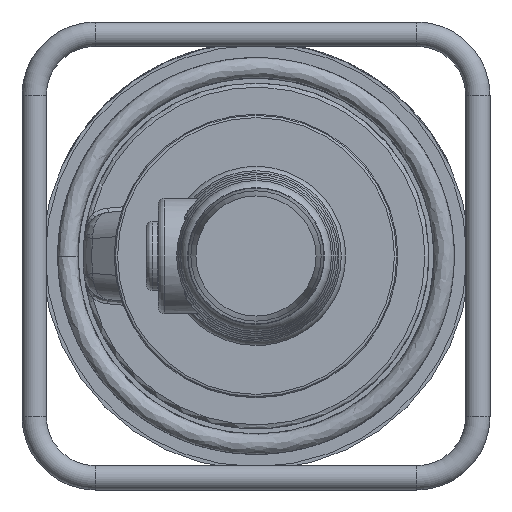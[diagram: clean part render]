
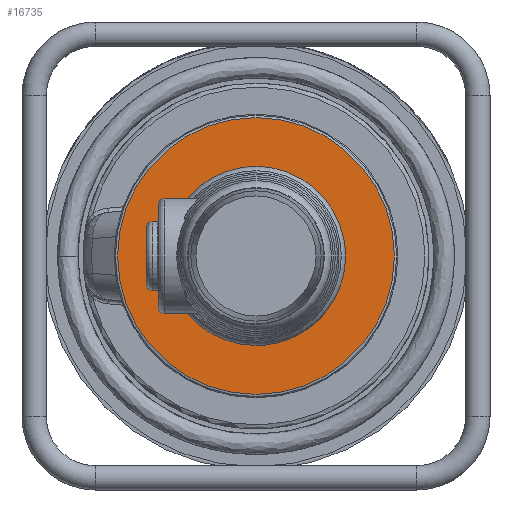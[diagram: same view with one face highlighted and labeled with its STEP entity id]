
A CAD part, left-side view. The second image highlights one B-rep face of the part: STEP entity #16735.
In plain terms, the highlighted planar face has unit normal (-1, 0, 0).
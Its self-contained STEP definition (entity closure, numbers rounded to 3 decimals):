
#3546=PLANE('',#18074);
#4455=FACE_OUTER_BOUND('',#5475,.T.);
#5475=EDGE_LOOP('',(#15144));
#6253=CIRCLE('',#18075,68.);
#7857=VERTEX_POINT('',#41200);
#10294=EDGE_CURVE('',#7857,#7857,#6253,.T.);
#15144=ORIENTED_EDGE('',*,*,#10294,.F.);
#16735=ADVANCED_FACE('',(#4455),#3546,.T.);
#18074=AXIS2_PLACEMENT_3D('',#41199,#21591,#21592);
#18075=AXIS2_PLACEMENT_3D('',#41201,#21593,#21594);
#21591=DIRECTION('center_axis',(-1.,0.,0.));
#21592=DIRECTION('ref_axis',(0.,-1.,0.));
#21593=DIRECTION('center_axis',(1.,0.,0.));
#21594=DIRECTION('ref_axis',(0.,0.,
-1.));
#41199=CARTESIAN_POINT('Origin',(-128.,0.,-55.5));
#41200=CARTESIAN_POINT('',(-128.,-68.,0.));
#41201=CARTESIAN_POINT('Origin',(-128.,0.,0.));
